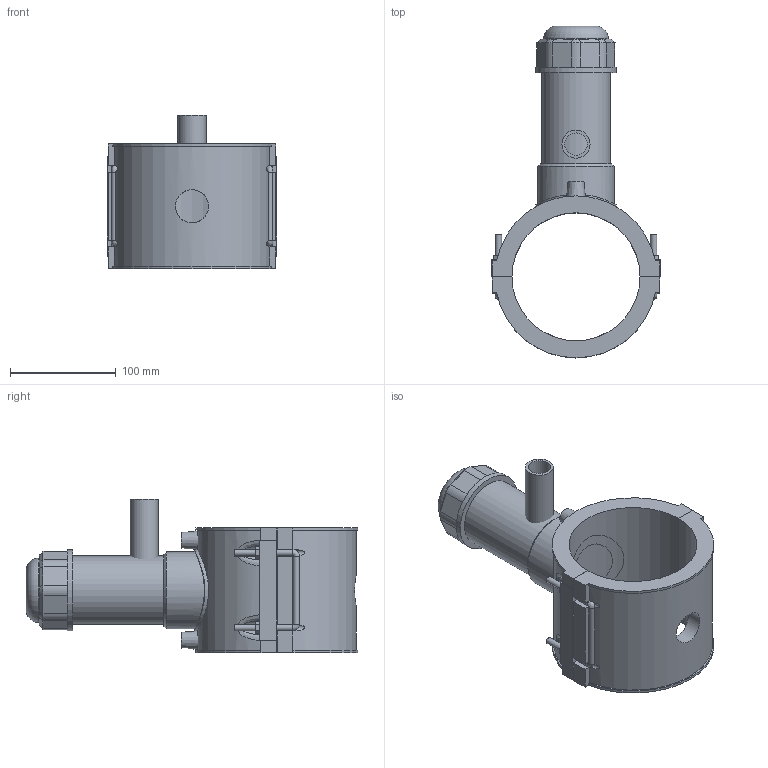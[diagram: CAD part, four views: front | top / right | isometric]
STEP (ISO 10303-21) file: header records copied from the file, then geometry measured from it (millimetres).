
FILE_DESCRIPTION(/* description */ ('PLASSON TAPPING SADDLE 4''''DIPS x 3/4''''IPS'),/* implementation_level */ '2;1');
FILE_NAME(/* name */ 'C:\Dropbox\KIMPROJECTS-Inventor 2019\99-16-3568-Processing Inch\ASTM ElectroFusion 2021\5963DBP_5963BUP\5963DBP3040007.ipt.stp',/* time_stamp */ '2021-08-30T09:58:17+03:00',/* author */ ('KIM'),/* organization */ (''),/* preprocessor_version */ 'ST-DEVELOPER v17.2',/* originating_system */ 'Autodesk Inventor 2019',/* authorisation */ '');
FILE_SCHEMA (('AUTOMOTIVE_DESIGN { 1 0 10303 214 3 1 1 }'));
Length unit declared in the file: inch
Products named in the file (1): 5963DBP3040007
Bounding box: 161 x 314.4 x 145.16 mm (x, y, z)
Volume: 1151261.5 mm3; surface area: 220195.6 mm2
Topology: 3 solids, 3 shells, 194 faces, 502 edges, 328 vertices
Faces by surface type: plane 118, cylinder 52, cone 15, bspline 8, torus 1
Full cylindrical faces by diameter (mm): 4 x2, 6 x8, 10 x2, 21.28 x1, 26.6 x1, 31.36 x1, 53.493 x1, 61.135 x1, 64.956 x1, 72.598 x1, 76.419 x2
Entity records: 7083 total; most frequent: CARTESIAN_POINT 2282, ORIENTED_EDGE 1004, DIRECTION 953, EDGE_CURVE 502, VERTEX_POINT 328, AXIS2_PLACEMENT_3D 322, LINE 309, VECTOR 309
